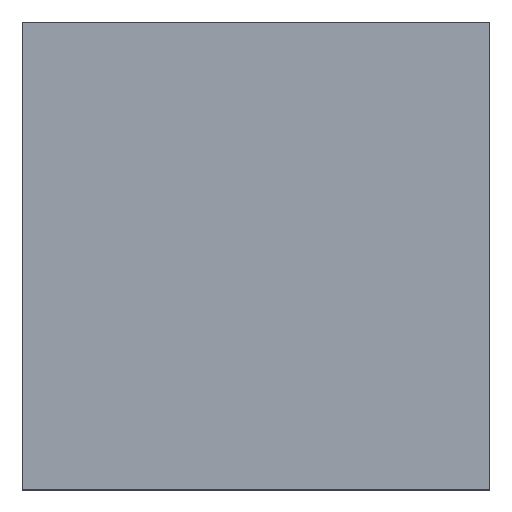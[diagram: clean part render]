
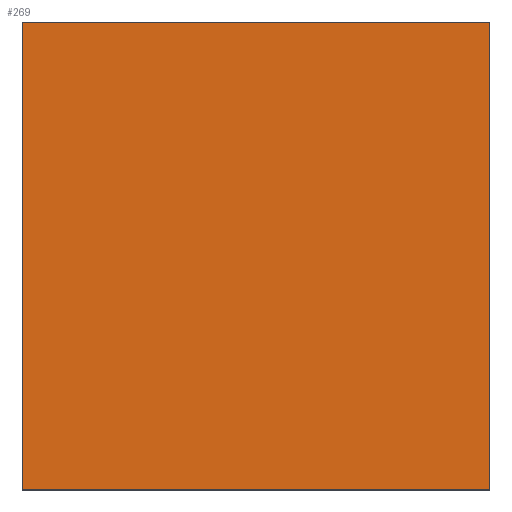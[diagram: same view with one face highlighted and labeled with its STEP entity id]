
A CAD part, top view. The second image highlights one B-rep face of the part: STEP entity #269.
In plain terms, the highlighted planar face has unit normal (0, 0, 1).
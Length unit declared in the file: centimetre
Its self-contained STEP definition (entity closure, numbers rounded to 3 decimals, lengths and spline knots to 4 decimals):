
#4 = CARTESIAN_POINT ( 'NONE',  ( 1000., 1000., 1000. ) ) ;
#34 = ORIENTED_EDGE ( 'NONE', *, *, #955, .T. ) ;
#49 = ORIENTED_EDGE ( 'NONE', *, *, #583, .T. ) ;
#79 = CARTESIAN_POINT ( 'NONE',  ( 0., 0., 1000. ) ) ;
#119 = PLANE ( 'NONE',  #597 ) ;
#156 = VECTOR ( 'NONE', #516, 100. ) ;
#170 = DIRECTION ( 'NONE',  ( 1., 0., 0. ) ) ;
#177 = LINE ( 'NONE', #79, #1005 ) ;
#187 = VERTEX_POINT ( 'NONE', #617 ) ;
#216 = VERTEX_POINT ( 'NONE', #4 ) ;
#221 = VECTOR ( 'NONE', #507, 100. ) ;
#234 = ORIENTED_EDGE ( 'NONE', *, *, #660, .T. ) ;
#269 = ADVANCED_FACE ( 'NONE', ( #1022 ), #119, .T. ) ;
#324 = CARTESIAN_POINT ( 'NONE',  ( 0., 1000., 1000. ) ) ;
#410 = LINE ( 'NONE', #1296, #221 ) ;
#423 = DIRECTION ( 'NONE',  ( 1., 0., 0. ) ) ;
#507 = DIRECTION ( 'NONE',  ( 0., -1., 0. ) ) ;
#516 = DIRECTION ( 'NONE',  ( -1., 0., 0. ) ) ;
#520 = CARTESIAN_POINT ( 'NONE',  ( 0., 0., 1000. ) ) ;
#539 = EDGE_CURVE ( 'NONE', #1049, #216, #654, .T. ) ;
#576 = CARTESIAN_POINT ( 'NONE',  ( 0., 1000., 1000. ) ) ;
#583 = EDGE_CURVE ( 'NONE', #953, #187, #410, .T. ) ;
#597 = AXIS2_PLACEMENT_3D ( 'NONE', #520, #916, #423 ) ;
#617 = CARTESIAN_POINT ( 'NONE',  ( 0., 0., 1000. ) ) ;
#654 = LINE ( 'NONE', #1063, #655 ) ;
#655 = VECTOR ( 'NONE', #781, 100. ) ;
#660 = EDGE_CURVE ( 'NONE', #216, #953, #918, .T. ) ;
#674 = ORIENTED_EDGE ( 'NONE', *, *, #539, .T. ) ;
#695 = CARTESIAN_POINT ( 'NONE',  ( 1000., 0., 1000. ) ) ;
#781 = DIRECTION ( 'NONE',  ( 0., 1., 0. ) ) ;
#916 = DIRECTION ( 'NONE',  ( 0., 0., 1. ) ) ;
#918 = LINE ( 'NONE', #324, #156 ) ;
#944 = EDGE_LOOP ( 'NONE', ( #49, #34, #674, #234 ) ) ;
#953 = VERTEX_POINT ( 'NONE', #576 ) ;
#955 = EDGE_CURVE ( 'NONE', #187, #1049, #177, .T. ) ;
#1005 = VECTOR ( 'NONE', #170, 100. ) ;
#1022 = FACE_OUTER_BOUND ( 'NONE', #944, .T. ) ;
#1049 = VERTEX_POINT ( 'NONE', #695 ) ;
#1063 = CARTESIAN_POINT ( 'NONE',  ( 1000., 1000., 1000. ) ) ;
#1296 = CARTESIAN_POINT ( 'NONE',  ( 0., 1000., 1000. ) ) ;
